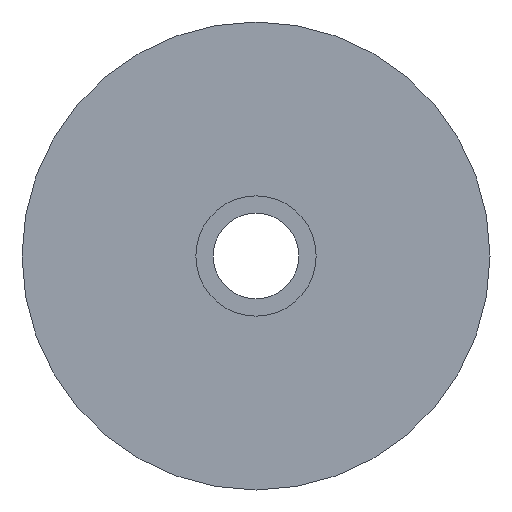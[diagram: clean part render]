
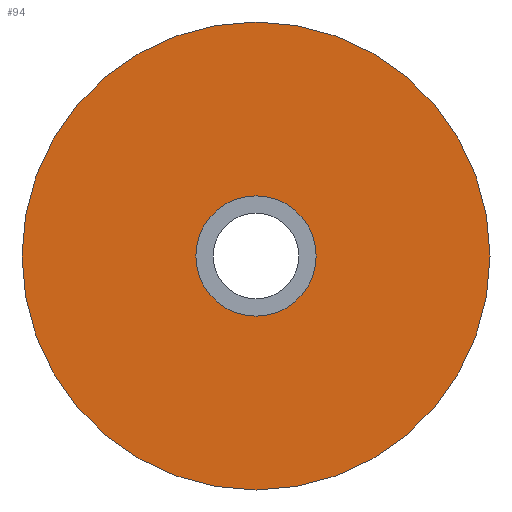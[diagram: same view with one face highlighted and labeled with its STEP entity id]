
A CAD part, front view. The second image highlights one B-rep face of the part: STEP entity #94.
In plain terms, the highlighted planar face has unit normal (0, -1, 0).
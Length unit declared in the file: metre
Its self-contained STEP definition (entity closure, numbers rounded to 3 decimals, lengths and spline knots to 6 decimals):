
#20=ORIENTED_EDGE('',*,*,#34,.F.);
#21=ORIENTED_EDGE('',*,*,#35,.T.);
#34=EDGE_CURVE('',#42,#42,#50,.T.);
#35=EDGE_CURVE('',#43,#43,#51,.T.);
#42=VERTEX_POINT('',#171);
#43=VERTEX_POINT('',#174);
#50=CIRCLE('',#117,0.010998);
#51=CIRCLE('',#119,0.042798);
#60=EDGE_LOOP('',(#20));
#61=EDGE_LOOP('',(#21));
#76=FACE_BOUND('',#60,.T.);
#77=FACE_BOUND('',#61,.T.);
#89=PLANE('',#118);
#94=ADVANCED_FACE('',(#76,#77),#89,.F.);
#117=AXIS2_PLACEMENT_3D('',#170,#139,#140);
#118=AXIS2_PLACEMENT_3D('',#172,#141,#142);
#119=AXIS2_PLACEMENT_3D('',#173,#143,#144);
#139=DIRECTION('',(0.,-1.,0.));
#140=DIRECTION('',(0.,0.,-1.));
#141=DIRECTION('',(0.,1.,0.));
#142=DIRECTION('',(0.,0.,1.));
#143=DIRECTION('',(0.,-1.,0.));
#144=DIRECTION('',(0.,0.,-1.));
#170=CARTESIAN_POINT('',(0.,-0.0122,0.));
#171=CARTESIAN_POINT('',(0.,-0.0122,-0.010998));
#172=CARTESIAN_POINT('',(0.,-0.0122,-0.024898));
#173=CARTESIAN_POINT('',(0.,-0.0122,0.));
#174=CARTESIAN_POINT('',(0.,-0.0122,-0.042798));
